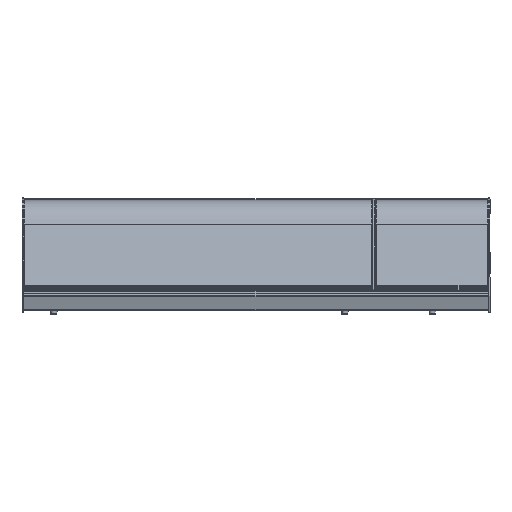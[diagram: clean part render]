
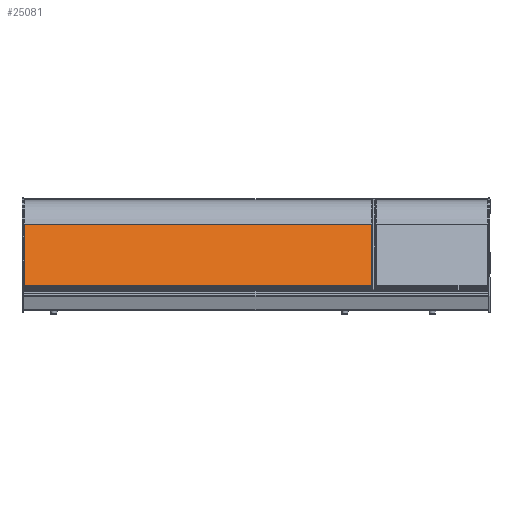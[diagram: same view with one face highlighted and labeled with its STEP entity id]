
A CAD part, left-side view. The second image highlights one B-rep face of the part: STEP entity #25081.
In plain terms, the highlighted planar face has unit normal (-0.966, 0, 0.259) as drawn and (0.259, 0, 0.966) by its records, which use the part's own axes.
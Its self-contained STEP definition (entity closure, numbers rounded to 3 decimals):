
#3798=ORIENTED_EDGE('',*,*,#9628,.T.);
#3799=ORIENTED_EDGE('',*,*,#9630,.T.);
#3800=ORIENTED_EDGE('',*,*,#9631,.T.);
#3801=ORIENTED_EDGE('',*,*,#9632,.T.);
#9628=EDGE_CURVE('',#12767,#12766,#15196,.T.);
#9630=EDGE_CURVE('',#12766,#12768,#15197,.T.);
#9631=EDGE_CURVE('',#12768,#12769,#15198,.T.);
#9632=EDGE_CURVE('',#12769,#12767,#15199,.T.);
#12766=VERTEX_POINT('',#37870);
#12767=VERTEX_POINT('',#37872);
#12768=VERTEX_POINT('',#37876);
#12769=VERTEX_POINT('',#37878);
#15196=LINE('',#37871,#18159);
#15197=LINE('',#37875,#18160);
#15198=LINE('',#37877,#18161);
#15199=LINE('',#37879,#18162);
#18159=VECTOR('',#30915,1000.);
#18160=VECTOR('',#30920,1000.);
#18161=VECTOR('',#30921,1000.);
#18162=VECTOR('',#30922,1000.);
#20781=EDGE_LOOP('',(#3798,#3799,#3800,#3801));
#22512=FACE_BOUND('',#20781,.T.);
#23932=PLANE('',#27313);
#25081=ADVANCED_FACE('',(#22512),#23932,.F.);
#27313=AXIS2_PLACEMENT_3D('',#37874,#30918,#30919);
#30915=DIRECTION('',(0.,1.,0.));
#30918=DIRECTION('',(-0.259,0.,-0.966));
#30919=DIRECTION('',(-0.966,0.,0.259));
#30920=DIRECTION('',(-0.966,0.,0.259));
#30921=DIRECTION('',(0.,-1.,0.));
#30922=DIRECTION('',(0.966,0.,-0.259));
#37870=CARTESIAN_POINT('',(200.588,537.,-53.747));
#37871=CARTESIAN_POINT('',(200.588,-538.,-53.747));
#37872=CARTESIAN_POINT('',(200.588,-537.,-53.747));
#37874=CARTESIAN_POINT('',(200.588,-538.,-53.747));
#37875=CARTESIAN_POINT('',(200.588,537.,-53.747));
#37876=CARTESIAN_POINT('',(0.966,537.,-0.259));
#37877=CARTESIAN_POINT('',(0.966,-538.,-0.259));
#37878=CARTESIAN_POINT('',(0.966,-537.,-0.259));
#37879=CARTESIAN_POINT('',(200.588,-537.,-53.747));
